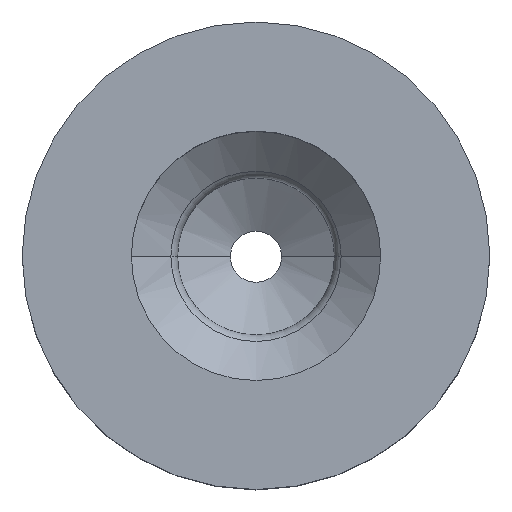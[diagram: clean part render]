
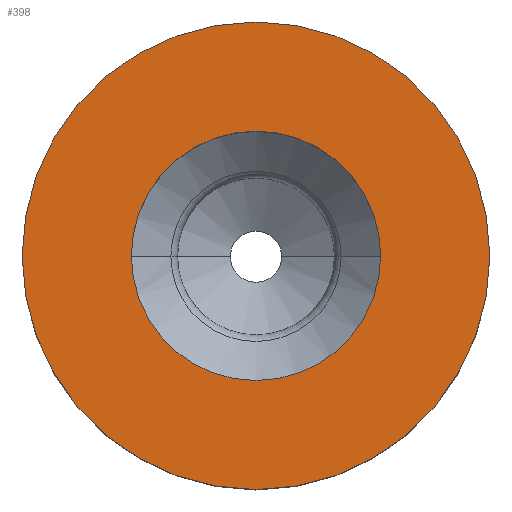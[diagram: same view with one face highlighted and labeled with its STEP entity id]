
A CAD part, top view. The second image highlights one B-rep face of the part: STEP entity #398.
In plain terms, the highlighted planar face has unit normal (0, 0, 1).
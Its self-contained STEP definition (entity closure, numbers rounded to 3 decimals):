
#52 = DIRECTION ( 'NONE',  ( 1., 0., 0. ) ) ;
#79 = CIRCLE ( 'NONE', #364, 4. ) ;
#91 = EDGE_LOOP ( 'NONE', ( #374, #652 ) ) ;
#93 = AXIS2_PLACEMENT_3D ( 'NONE', #242, #629, #419 ) ;
#101 = CARTESIAN_POINT ( 'NONE',  ( 0., 0., 0. ) ) ;
#138 = AXIS2_PLACEMENT_3D ( 'NONE', #321, #399, #786 ) ;
#148 = FACE_BOUND ( 'NONE', #739, .T. ) ;
#157 = EDGE_CURVE ( 'NONE', #475, #303, #394, .T. ) ;
#193 = PLANE ( 'NONE',  #138 ) ;
#197 = AXIS2_PLACEMENT_3D ( 'NONE', #449, #516, #52 ) ;
#199 = VERTEX_POINT ( 'NONE', #609 ) ;
#232 = ORIENTED_EDGE ( 'NONE', *, *, #948, .F. ) ;
#242 = CARTESIAN_POINT ( 'NONE',  ( 0., 0., 0. ) ) ;
#280 = CIRCLE ( 'NONE', #197, 7.5 ) ;
#290 = CARTESIAN_POINT ( 'NONE',  ( 0., 0., 0. ) ) ;
#302 = VERTEX_POINT ( 'NONE', #659 ) ;
#303 = VERTEX_POINT ( 'NONE', #746 ) ;
#321 = CARTESIAN_POINT ( 'NONE',  ( 0., 0., 0. ) ) ;
#364 = AXIS2_PLACEMENT_3D ( 'NONE', #101, #896, #517 ) ;
#367 = CIRCLE ( 'NONE', #421, 4. ) ;
#374 = ORIENTED_EDGE ( 'NONE', *, *, #504, .T. ) ;
#394 = CIRCLE ( 'NONE', #93, 7.5 ) ;
#398 = ADVANCED_FACE ( 'NONE', ( #619, #148 ), #193, .F. ) ;
#399 = DIRECTION ( 'NONE',  ( 0., 0., -1. ) ) ;
#419 = DIRECTION ( 'NONE',  ( 1., 0., 0. ) ) ;
#421 = AXIS2_PLACEMENT_3D ( 'NONE', #290, #710, #833 ) ;
#448 = CARTESIAN_POINT ( 'NONE',  ( -7.5, 0., 0. ) ) ;
#449 = CARTESIAN_POINT ( 'NONE',  ( 0., 0., 0. ) ) ;
#475 = VERTEX_POINT ( 'NONE', #448 ) ;
#504 = EDGE_CURVE ( 'NONE', #303, #475, #280, .T. ) ;
#505 = ORIENTED_EDGE ( 'NONE', *, *, #935, .F. ) ;
#516 = DIRECTION ( 'NONE',  ( 0., 0., 1. ) ) ;
#517 = DIRECTION ( 'NONE',  ( 1., 0., 0. ) ) ;
#609 = CARTESIAN_POINT ( 'NONE',  ( -4., 0., 0. ) ) ;
#619 = FACE_OUTER_BOUND ( 'NONE', #91, .T. ) ;
#629 = DIRECTION ( 'NONE',  ( 0., 0., 1. ) ) ;
#652 = ORIENTED_EDGE ( 'NONE', *, *, #157, .T. ) ;
#659 = CARTESIAN_POINT ( 'NONE',  ( 4., 0., 0. ) ) ;
#710 = DIRECTION ( 'NONE',  ( 0., 0., 1. ) ) ;
#739 = EDGE_LOOP ( 'NONE', ( #505, #232 ) ) ;
#746 = CARTESIAN_POINT ( 'NONE',  ( 7.5, 0., 0. ) ) ;
#786 = DIRECTION ( 'NONE',  ( -1., 0., 0. ) ) ;
#833 = DIRECTION ( 'NONE',  ( 1., 0., 0. ) ) ;
#896 = DIRECTION ( 'NONE',  ( 0., 0., 1. ) ) ;
#935 = EDGE_CURVE ( 'NONE', #302, #199, #79, .T. ) ;
#948 = EDGE_CURVE ( 'NONE', #199, #302, #367, .T. ) ;
